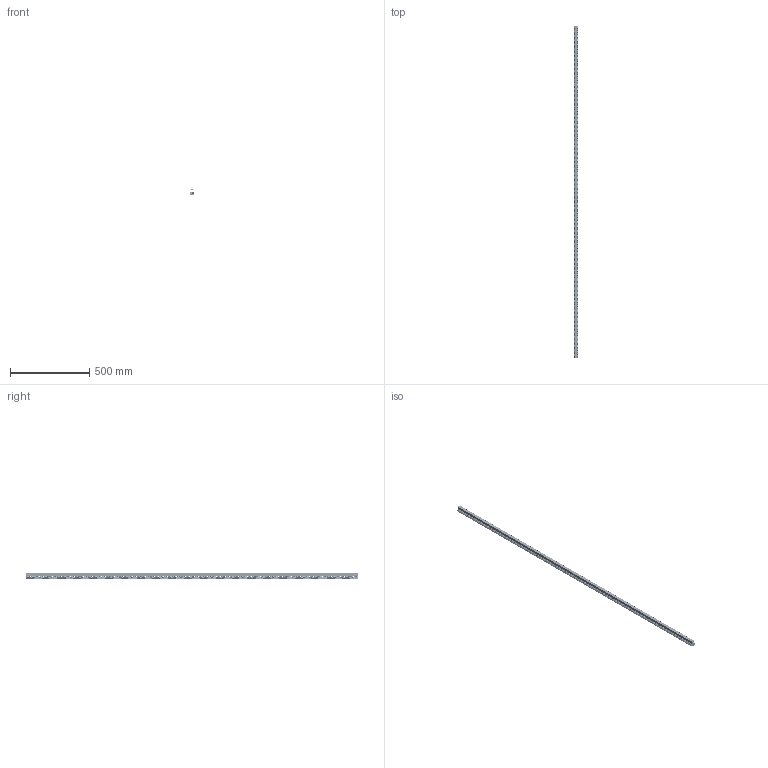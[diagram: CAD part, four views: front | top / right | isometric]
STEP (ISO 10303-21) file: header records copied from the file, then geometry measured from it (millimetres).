
FILE_DESCRIPTION(/* description */ (''),/* implementation_level */ '2;1');
FILE_NAME(/* name */ 'Somnium System 2100mm_semplificato.stp',/* time_stamp */ '2025-02-18T17:15:48+01:00',/* author */ (''),/* organization */ (''),/* preprocessor_version */ 'ST-DEVELOPER v19.3',/* originating_system */ 'SIEMENS PLM Software NX2212.5000',/* authorisation */ '');
FILE_SCHEMA (('AUTOMOTIVE_DESIGN { 1 0 10303 214 3 1 1 1 }'));
Products named in the file (4): 009858_--SOMNIUM DIFFUSORE semplificato; 009856_--SOMNIUM ESTRUSO LINEARE semplificato; 009859_--SOMNIUM LENTE LINEARE semplificata; 009855_--SOMNIUM semplificato
Assembly tree (17 placements, depth 2):
  009855_--SOMNIUM semplificato
    009859_--SOMNIUM LENTE LINEARE semplificata  x15
    009856_--SOMNIUM ESTRUSO LINEARE semplificato
    009858_--SOMNIUM DIFFUSORE semplificato
Bounding box: 30.15 x 2100 x 32.35 mm (x, y, z)
Volume: 534725.6 mm3; surface area: 622165 mm2
Topology: 17 solids, 17 shells, 11250 faces, 30843 edges, 19702 vertices
Faces by surface type: bspline 7800, cylinder 2428, plane 947, revolution 75
Entity records: 42107 total; most frequent: CARTESIAN_POINT 26284, ORIENTED_EDGE 4406, EDGE_CURVE 2203, B_SPLINE_CURVE_WITH_KNOTS 1678, VERTEX_POINT 1418, DIRECTION 1349, EDGE_LOOP 816, ADVANCED_FACE 806
